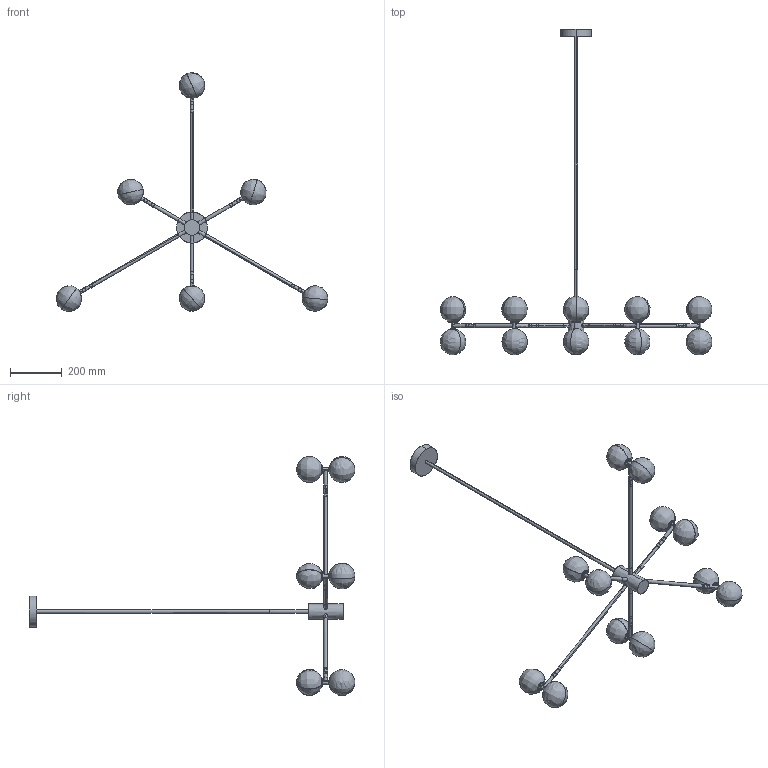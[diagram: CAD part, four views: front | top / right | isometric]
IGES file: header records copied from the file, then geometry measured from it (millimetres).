
Start section: SolidWorks IGES file using analytic representation for surfaces
Global section: file name: C:\Users\adrian\Desktop\MODELADOS USA\DALT\CU1280_6\CU1280-6.IGS; native system: SolidWorks 2023; preprocessor: SolidWorks 2023; author: adrian; date: 260609.105024; units: inch
Bounding box: 1050.58 x 1258.61 x 923.21 mm (x, y, z)
Surface area: 795004.2 mm2 (no closed solid volume)
Topology: 0 solids, 0 shells, 376 faces, 6760 edges, 6688 vertices
Faces by surface type: bspline 374, revolution 2
